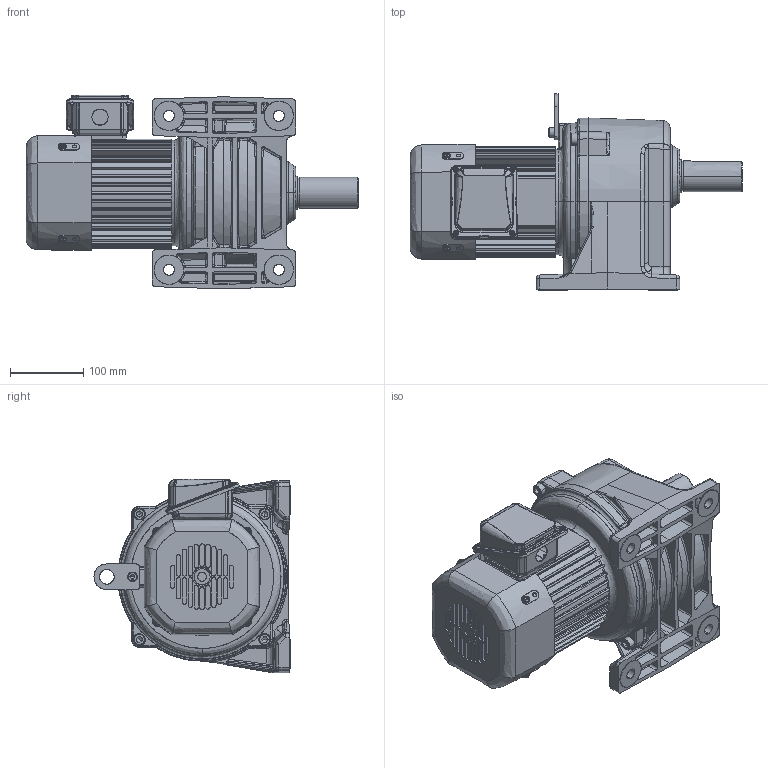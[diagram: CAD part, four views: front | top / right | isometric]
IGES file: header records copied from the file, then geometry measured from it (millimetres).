
Start section: SolidWorks IGES file using analytic representation for surfaces
Global section: file name: \\100.100.100.8\1_共有作業フォルダ\1-5_３Ｄデータ\solidworks\personal-folder\H.Nagayama\SGP1外形075~370\P1(3D)_075~370\igs\TML2-07-(100~200).IGS; native system: SolidWorks 2018; preprocessor: SolidWorks 2018; author: sigma-giken; date: 200806.161657; units: millimetre
Bounding box: 453 x 267.5 x 264.2 mm (x, y, z)
Surface area: 731133.4 mm2 (no closed solid volume)
Topology: 0 solids, 0 shells, 1943 faces, 23587 edges, 23534 vertices
Faces by surface type: bspline 1035, revolution 908
